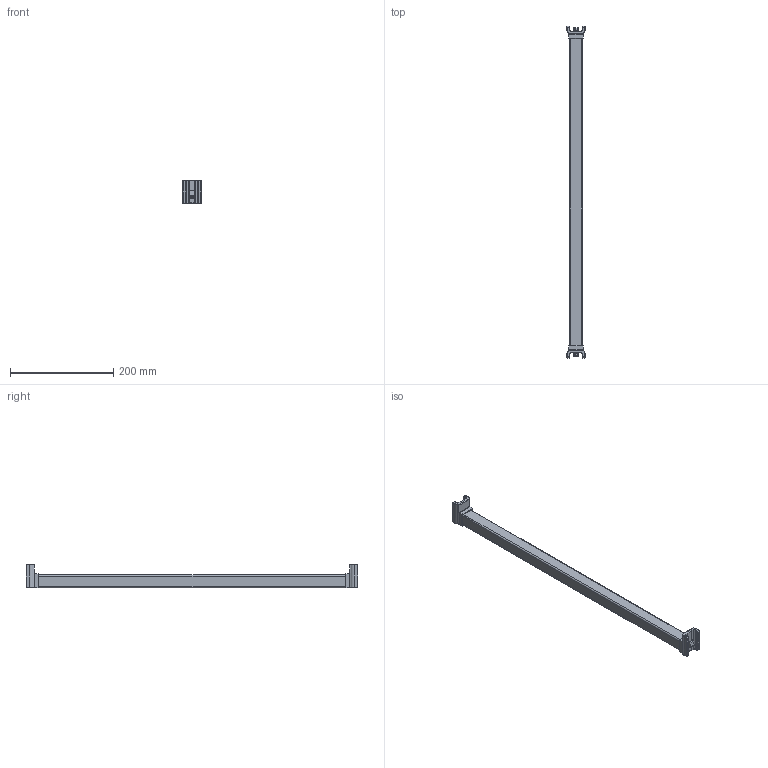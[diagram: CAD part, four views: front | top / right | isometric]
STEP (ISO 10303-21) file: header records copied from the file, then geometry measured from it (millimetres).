
FILE_DESCRIPTION (( 'STEP AP214' ), '1' );
FILE_NAME ('1000077.STEP', '2025-10-01T12:33:51', ( '' ), ( '' ), 'SwSTEP 2.0', 'SolidWorks 2025', '' );
FILE_SCHEMA (( 'AUTOMOTIVE_DESIGN' ));
Length unit declared in the file: millimetre
Products named in the file (1): 1000077
Bounding box: 35.6 x 643.5 x 46 mm (x, y, z)
Volume: 454565.2 mm3; surface area: 82407.2 mm2
Topology: 5 solids, 5 shells, 375 faces, 1035 edges, 670 vertices
Faces by surface type: plane 222, cylinder 133, bspline 20
Entity records: 12497 total; most frequent: CARTESIAN_POINT 3256, ORIENTED_EDGE 2070, DIRECTION 1697, EDGE_CURVE 1035, VECTOR 675, LINE 675, VERTEX_POINT 670, AXIS2_PLACEMENT_3D 511
